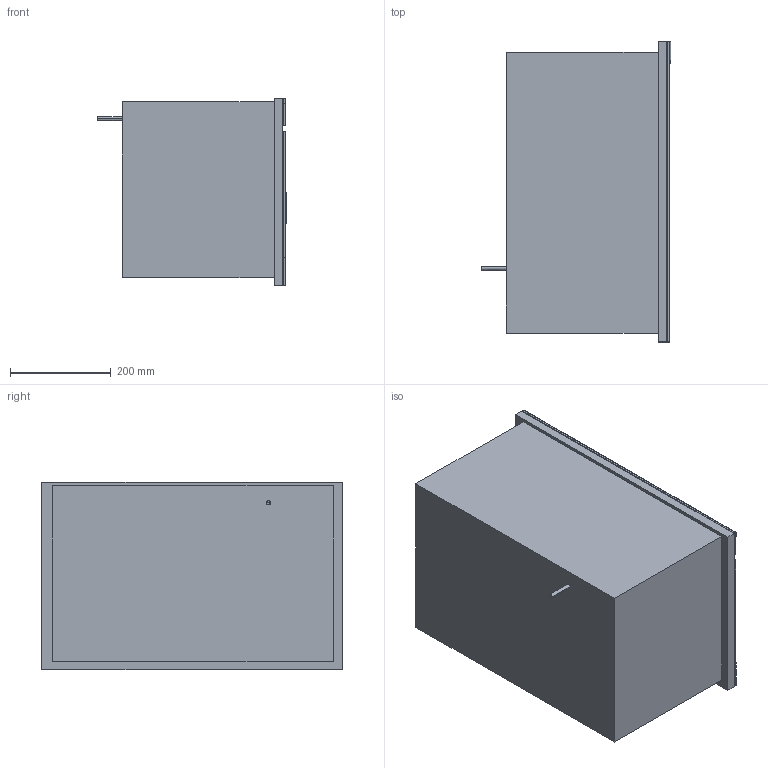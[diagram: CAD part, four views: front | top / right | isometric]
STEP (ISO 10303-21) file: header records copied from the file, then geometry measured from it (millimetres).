
FILE_DESCRIPTION(/* description */ (''),/* implementation_level */ '2;1');
FILE_NAME(/* name */ 'DG6030_CLST',/* time_stamp */ '2013-03-11T12:08:32+01:00',/* author */ (''),/* organization */ (''),/* preprocessor_version */ 'ST-DEVELOPER v10',/* originating_system */ '',/* authorisation */ '');
FILE_SCHEMA (('AUTOMOTIVE_DESIGN_CC2'));
Length unit declared in the file: millimetre
Products named in the file (1): 1
Bounding box: 375.78 x 595.07 x 372 mm (x, y, z)
Volume: 63280918 mm3; surface area: 1953258.7 mm2
Topology: 9 solids, 9 shells, 76 faces, 168 edges, 106 vertices
Faces by surface type: bspline 76
Entity records: 2379 total; most frequent: CARTESIAN_POINT 1243, ORIENTED_EDGE 328, EDGE_CURVE 164, B_SPLINE_CURVE_WITH_KNOTS 144, VERTEX_POINT 106, ADVANCED_FACE 76, FACE_OUTER_BOUND 76, EDGE_LOOP 76
